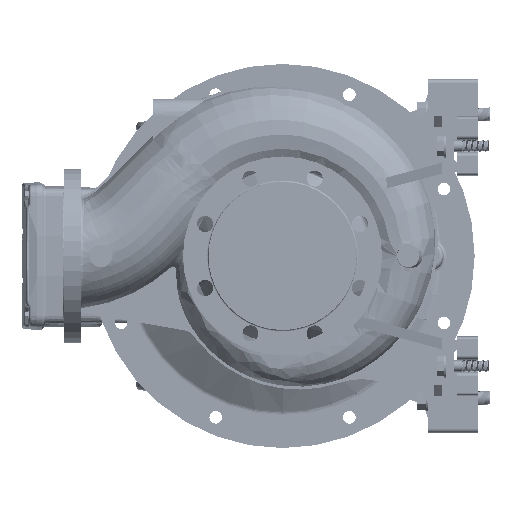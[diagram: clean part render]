
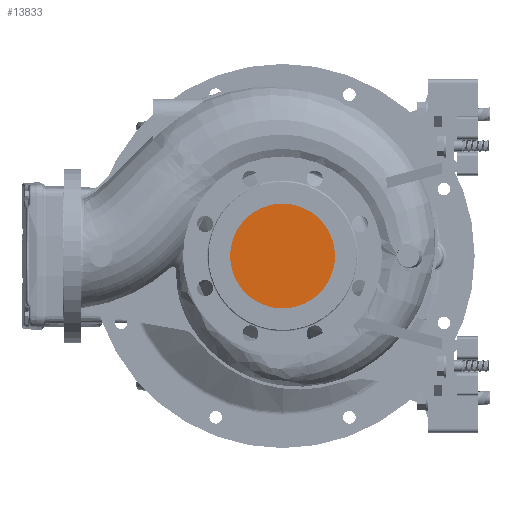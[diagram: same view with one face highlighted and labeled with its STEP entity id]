
A CAD part, left-side view. The second image highlights one B-rep face of the part: STEP entity #13833.
In plain terms, the highlighted planar face has unit normal (-1, 0, 0).
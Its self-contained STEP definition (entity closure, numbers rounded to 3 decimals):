
#258 = CARTESIAN_POINT ( 'NONE',  ( -138., -21.807, -71.886 ) ) ;
#2009 = CARTESIAN_POINT ( 'NONE',  ( -138., -31.054, -68.578 ) ) ;
#2884 = CARTESIAN_POINT ( 'NONE',  ( -138., -62.461, -41.735 ) ) ;
#3473 = B_SPLINE_CURVE_WITH_KNOTS ( 'NONE', 3,
 ( #27651, #69231, #124941, #164678, #258, #2009, #42651, #55961, #3762, #2884, #57693, #149695, #83363, #54203, #162923, #151444, #56825, #40926, #14389, #70103, #80752, #122337, #135553 ),
 .UNSPECIFIED., .F., .F.,
 ( 4, 1, 1, 1, 1, 1, 1, 1, 1, 1, 1, 1, 1, 1, 1, 1, 1, 1, 1, 1, 4 ),
 ( 0., 0.007, 0.015, 0.022, 0.029, 0.044, 0.059, 0.066, 0.074, 0.081, 0.088, 0.103, 0.118, 0.133, 0.147, 0.162, 0.177, 0.191, 0.206, 0.221, 0.236 ),
 .UNSPECIFIED. ) ;
#3762 = CARTESIAN_POINT ( 'NONE',  ( -138., -58.069, -47.656 ) ) ;
#7829 = CARTESIAN_POINT ( 'NONE',  ( -138., 75.483, 0. ) ) ;
#9572 = CARTESIAN_POINT ( 'NONE',  ( -138., 7.364, -74.759 ) ) ;
#10434 = CARTESIAN_POINT ( 'NONE',  ( -138., 66.25, -35.411 ) ) ;
#12945 = CARTESIAN_POINT ( 'NONE',  ( -138., 0., 75. ) ) ;
#13833 = ADVANCED_FACE ( 'NONE', ( #154783 ), #141531, .T. ) ;
#14389 = CARTESIAN_POINT ( 'NONE',  ( -138., -41.936, 62.762 ) ) ;
#22812 = CARTESIAN_POINT ( 'NONE',  ( -138., 21.807, -71.886 ) ) ;
#27651 = CARTESIAN_POINT ( 'NONE',  ( -138., 0., -75. ) ) ;
#28677 = EDGE_LOOP ( 'NONE', ( #140603, #74415 ) ) ;
#35233 = CARTESIAN_POINT ( 'NONE',  ( -138., 2.453, -75. ) ) ;
#40926 = CARTESIAN_POINT ( 'NONE',  ( -138., -53.375, 53.375 ) ) ;
#42651 = CARTESIAN_POINT ( 'NONE',  ( -138., -41.937, -62.763 ) ) ;
#47613 = CARTESIAN_POINT ( 'NONE',  ( -138., 53.375, 53.375 ) ) ;
#54203 = CARTESIAN_POINT ( 'NONE',  ( -138., -75.483, 0. ) ) ;
#55961 = CARTESIAN_POINT ( 'NONE',  ( -138., -51.474, -54.933 ) ) ;
#56825 = CARTESIAN_POINT ( 'NONE',  ( -138., -62.762, 41.936 ) ) ;
#57693 = CARTESIAN_POINT ( 'NONE',  ( -138., -66.25, -35.411 ) ) ;
#60903 = CARTESIAN_POINT ( 'NONE',  ( -138., 4.909, 75. ) ) ;
#61781 = CARTESIAN_POINT ( 'NONE',  ( -138., 14.726, 74.033 ) ) ;
#62662 = CARTESIAN_POINT ( 'NONE',  ( -138., 74.033, 14.726 ) ) ;
#63530 = CARTESIAN_POINT ( 'NONE',  ( -138., 0., -75. ) ) ;
#67840 = CARTESIAN_POINT ( 'NONE',  ( -138., 0., -75. ) ) ;
#69231 = CARTESIAN_POINT ( 'NONE',  ( -138., -2.453, -75. ) ) ;
#70103 = CARTESIAN_POINT ( 'NONE',  ( -138., -28.886, 69.738 ) ) ;
#70864 = DIRECTION ( 'NONE',  ( 0., 0., 1. ) ) ;
#74415 = ORIENTED_EDGE ( 'NONE', *, *, #134698, .T. ) ;
#75057 = CARTESIAN_POINT ( 'NONE',  ( -138., 41.936, 62.762 ) ) ;
#80752 = CARTESIAN_POINT ( 'NONE',  ( -138., -14.726, 74.033 ) ) ;
#83363 = CARTESIAN_POINT ( 'NONE',  ( -138., -74.034, -14.724 ) ) ;
#88317 = CARTESIAN_POINT ( 'NONE',  ( -138., 0., 75. ) ) ;
#89194 = CARTESIAN_POINT ( 'NONE',  ( -138., 31.054, -68.578 ) ) ;
#90054 = CARTESIAN_POINT ( 'NONE',  ( -138., 58.069, -47.656 ) ) ;
#92405 = AXIS2_PLACEMENT_3D ( 'NONE', #152204, #166319, #70864 ) ;
#101598 = CARTESIAN_POINT ( 'NONE',  ( -138., 62.762, 41.936 ) ) ;
#102478 = CARTESIAN_POINT ( 'NONE',  ( -138., 51.474, -54.933 ) ) ;
#113105 = VERTEX_POINT ( 'NONE', #12945 ) ;
#115458 = VERTEX_POINT ( 'NONE', #67840 ) ;
#122337 = CARTESIAN_POINT ( 'NONE',  ( -138., -4.909, 75. ) ) ;
#124941 = CARTESIAN_POINT ( 'NONE',  ( -138., -7.364, -74.759 ) ) ;
#129025 = CARTESIAN_POINT ( 'NONE',  ( -138., 69.738, 28.886 ) ) ;
#134698 = EDGE_CURVE ( 'NONE', #113105, #115458, #156254, .T. ) ;
#135553 = CARTESIAN_POINT ( 'NONE',  ( -138., 0., 75. ) ) ;
#140603 = ORIENTED_EDGE ( 'NONE', *, *, #148026, .T. ) ;
#141531 = PLANE ( 'NONE',  #92405 ) ;
#142261 = CARTESIAN_POINT ( 'NONE',  ( -138., 28.886, 69.738 ) ) ;
#143985 = CARTESIAN_POINT ( 'NONE',  ( -138., 41.937, -62.763 ) ) ;
#148026 = EDGE_CURVE ( 'NONE', #115458, #113105, #3473, .T. ) ;
#149695 = CARTESIAN_POINT ( 'NONE',  ( -138., -70.45, -26.534 ) ) ;
#151444 = CARTESIAN_POINT ( 'NONE',  ( -138., -69.738, 28.886 ) ) ;
#152204 = CARTESIAN_POINT ( 'NONE',  ( -138., -76.373, -75.9 ) ) ;
#154783 = FACE_OUTER_BOUND ( 'NONE', #28677, .T. ) ;
#156254 = B_SPLINE_CURVE_WITH_KNOTS ( 'NONE', 3,
 ( #88317, #60903, #61781, #142261, #75057, #47613, #101598, #129025, #62662, #7829, #157228, #169633, #10434, #172229, #90054, #102478, #143985, #89194, #22812, #156370, #9572, #35233, #63530 ),
 .UNSPECIFIED., .F., .F.,
 ( 4, 1, 1, 1, 1, 1, 1, 1, 1, 1, 1, 1, 1, 1, 1, 1, 1, 1, 1, 1, 4 ),
 ( 0., 0.015, 0.029, 0.044, 0.059, 0.074, 0.088, 0.103, 0.118, 0.133, 0.147, 0.155, 0.162, 0.169, 0.177, 0.191, 0.206, 0.214, 0.221, 0.228, 0.236 ),
 .UNSPECIFIED. ) ;
#156370 = CARTESIAN_POINT ( 'NONE',  ( -138., 14.655, -73.677 ) ) ;
#157228 = CARTESIAN_POINT ( 'NONE',  ( -138., 74.034, -14.724 ) ) ;
#162923 = CARTESIAN_POINT ( 'NONE',  ( -138., -74.033, 14.726 ) ) ;
#164678 = CARTESIAN_POINT ( 'NONE',  ( -138., -14.655, -73.677 ) ) ;
#166319 = DIRECTION ( 'NONE',  ( -1., 0., 0. ) ) ;
#169633 = CARTESIAN_POINT ( 'NONE',  ( -138., 70.45, -26.534 ) ) ;
#172229 = CARTESIAN_POINT ( 'NONE',  ( -138., 62.461, -41.735 ) ) ;
